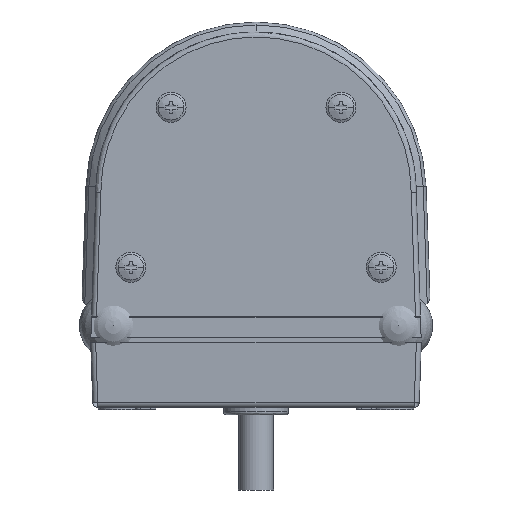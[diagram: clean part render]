
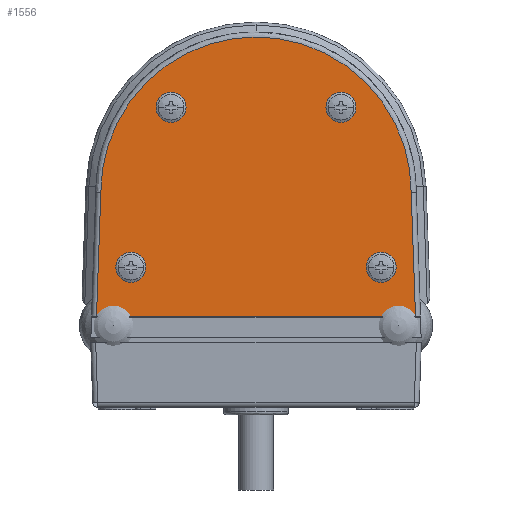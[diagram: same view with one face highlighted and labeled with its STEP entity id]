
A CAD part, front view. The second image highlights one B-rep face of the part: STEP entity #1556.
In plain terms, the highlighted planar face has unit normal (0, -1, 0).
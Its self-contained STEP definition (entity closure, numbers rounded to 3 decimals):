
#1542 = EDGE_CURVE ( 'NONE', #3585, #3582, #12920, .T. ) ;
#1555 = EDGE_CURVE ( 'NONE', #3185, #3207, #12967, .T. ) ;
#1556 = ADVANCED_FACE ( 'NONE', ( #12963, #12962, #12961, #12960, #12959 ), #12958, .F. ) ;
#1557 = EDGE_LOOP ( 'NONE', ( #1730, #1731 ) ) ;
#1560 = EDGE_CURVE ( 'NONE', #3571, #3568, #12956, .T. ) ;
#1566 = ORIENTED_EDGE ( 'NONE', *, *, #3584, .F. ) ;
#1567 = EDGE_LOOP ( 'NONE', ( #1568, #1594, #1597, #1600 ) ) ;
#1568 = ORIENTED_EDGE ( 'NONE', *, *, #1569, .T. ) ;
#1569 = EDGE_CURVE ( 'NONE', #1592, #1593, #12861, .T. ) ;
#1574 = EDGE_CURVE ( 'NONE', #3434, #3431, #12857, .T. ) ;
#1577 = ORIENTED_EDGE ( 'NONE', *, *, #3570, .F. ) ;
#1578 = EDGE_LOOP ( 'NONE', ( #1579, #1566 ) ) ;
#1579 = ORIENTED_EDGE ( 'NONE', *, *, #1542, .F. ) ;
#1586 = ORIENTED_EDGE ( 'NONE', *, *, #1574, .F. ) ;
#1587 = ORIENTED_EDGE ( 'NONE', *, *, #3158, .F. ) ;
#1588 = EDGE_LOOP ( 'NONE', ( #1589, #1577 ) ) ;
#1589 = ORIENTED_EDGE ( 'NONE', *, *, #1560, .F. ) ;
#1592 = VERTEX_POINT ( 'NONE', #13138 ) ;
#1593 = VERTEX_POINT ( 'NONE', #13232 ) ;
#1594 = ORIENTED_EDGE ( 'NONE', *, *, #1595, .T. ) ;
#1595 = EDGE_CURVE ( 'NONE', #1593, #1596, #13222, .T. ) ;
#1596 = VERTEX_POINT ( 'NONE', #13139 ) ;
#1597 = ORIENTED_EDGE ( 'NONE', *, *, #1598, .T. ) ;
#1598 = EDGE_CURVE ( 'NONE', #1596, #1599, #13244, .T. ) ;
#1599 = VERTEX_POINT ( 'NONE', #13240 ) ;
#1600 = ORIENTED_EDGE ( 'NONE', *, *, #1601, .F. ) ;
#1601 = EDGE_CURVE ( 'NONE', #1592, #1599, #13135, .T. ) ;
#1730 = ORIENTED_EDGE ( 'NONE', *, *, #1555, .F. ) ;
#1731 = ORIENTED_EDGE ( 'NONE', *, *, #3184, .F. ) ;
#1732 = EDGE_LOOP ( 'NONE', ( #1586, #1587 ) ) ;
#3158 = EDGE_CURVE ( 'NONE', #3431, #3434, #5089, .T. ) ;
#3184 = EDGE_CURVE ( 'NONE', #3207, #3185, #5535, .T. ) ;
#3185 = VERTEX_POINT ( 'NONE', #5530 ) ;
#3207 = VERTEX_POINT ( 'NONE', #5440 ) ;
#3431 = VERTEX_POINT ( 'NONE', #5882 ) ;
#3434 = VERTEX_POINT ( 'NONE', #5880 ) ;
#3568 = VERTEX_POINT ( 'NONE', #6132 ) ;
#3570 = EDGE_CURVE ( 'NONE', #3568, #3571, #6131, .T. ) ;
#3571 = VERTEX_POINT ( 'NONE', #6187 ) ;
#3582 = VERTEX_POINT ( 'NONE', #6165 ) ;
#3584 = EDGE_CURVE ( 'NONE', #3582, #3585, #6164, .T. ) ;
#3585 = VERTEX_POINT ( 'NONE', #6159 ) ;
#5080 = DIRECTION ( 'NONE',  ( 0., 0., -1. ) ) ;
#5081 = DIRECTION ( 'NONE',  ( 0., -1., 0. ) ) ;
#5082 = CARTESIAN_POINT ( 'NONE',  ( 17.003, 0., 16.471 ) ) ;
#5083 = AXIS2_PLACEMENT_3D ( 'NONE', #5082, #5081, #5080 ) ;
#5089 = CIRCLE ( 'NONE', #5083, 3. ) ;
#5440 = CARTESIAN_POINT ( 'NONE',  ( -16.939, 0., 19.471 ) ) ;
#5530 = CARTESIAN_POINT ( 'NONE',  ( -16.939, 0., 13.471 ) ) ;
#5531 = DIRECTION ( 'NONE',  ( 0., 0., -1. ) ) ;
#5532 = DIRECTION ( 'NONE',  ( 0., -1., 0. ) ) ;
#5533 = CARTESIAN_POINT ( 'NONE',  ( -16.939, 0., 16.471 ) ) ;
#5534 = AXIS2_PLACEMENT_3D ( 'NONE', #5533, #5532, #5531 ) ;
#5535 = CIRCLE ( 'NONE', #5534, 3. ) ;
#5880 = CARTESIAN_POINT ( 'NONE',  ( 17.003, 0., 13.471 ) ) ;
#5882 = CARTESIAN_POINT ( 'NONE',  ( 17.003, 0., 19.471 ) ) ;
#6131 = CIRCLE ( 'NONE', #6191, 3. ) ;
#6132 = CARTESIAN_POINT ( 'NONE',  ( -24.968, 0., -12.5 ) ) ;
#6159 = CARTESIAN_POINT ( 'NONE',  ( 25.032, 0., -18.5 ) ) ;
#6160 = DIRECTION ( 'NONE',  ( 0., 0., -1. ) ) ;
#6161 = DIRECTION ( 'NONE',  ( 0., -1., 0. ) ) ;
#6162 = CARTESIAN_POINT ( 'NONE',  ( 25.032, 0., -15.5 ) ) ;
#6163 = AXIS2_PLACEMENT_3D ( 'NONE', #6162, #6161, #6160 ) ;
#6164 = CIRCLE ( 'NONE', #6163, 3. ) ;
#6165 = CARTESIAN_POINT ( 'NONE',  ( 25.032, 0., -12.5 ) ) ;
#6187 = CARTESIAN_POINT ( 'NONE',  ( -24.968, 0., -18.5 ) ) ;
#6188 = DIRECTION ( 'NONE',  ( 0., 0., -1. ) ) ;
#6189 = DIRECTION ( 'NONE',  ( 0., -1., 0. ) ) ;
#6190 = CARTESIAN_POINT ( 'NONE',  ( -24.968, 0., -15.5 ) ) ;
#6191 = AXIS2_PLACEMENT_3D ( 'NONE', #6190, #6189, #6188 ) ;
#12853 = DIRECTION ( 'NONE',  ( 0., 0., -1. ) ) ;
#12854 = DIRECTION ( 'NONE',  ( 0., -1., 0. ) ) ;
#12855 = CARTESIAN_POINT ( 'NONE',  ( 17.003, 0., 16.471 ) ) ;
#12856 = AXIS2_PLACEMENT_3D ( 'NONE', #12855, #12854, #12853 ) ;
#12857 = CIRCLE ( 'NONE', #12856, 3. ) ;
#12858 = DIRECTION ( 'NONE',  ( -0.035, 0., -0.999 ) ) ;
#12859 = VECTOR ( 'NONE', #12858, 1000. ) ;
#12860 = CARTESIAN_POINT ( 'NONE',  ( -31.403, 0., -12.976 ) ) ;
#12861 = LINE ( 'NONE', #12860, #12859 ) ;
#12916 = DIRECTION ( 'NONE',  ( 0., 0., -1. ) ) ;
#12917 = DIRECTION ( 'NONE',  ( 0., -1., 0. ) ) ;
#12918 = CARTESIAN_POINT ( 'NONE',  ( 25.032, 0., -15.5 ) ) ;
#12919 = AXIS2_PLACEMENT_3D ( 'NONE', #12918, #12917, #12916 ) ;
#12920 = CIRCLE ( 'NONE', #12919, 3. ) ;
#12949 = DIRECTION ( 'NONE',  ( 0., 0., -1. ) ) ;
#12950 = DIRECTION ( 'NONE',  ( 0., -1., 0. ) ) ;
#12951 = CARTESIAN_POINT ( 'NONE',  ( -24.968, 0., -15.5 ) ) ;
#12952 = AXIS2_PLACEMENT_3D ( 'NONE', #12951, #12950, #12949 ) ;
#12953 = DIRECTION ( 'NONE',  ( 0., 0., -1. ) ) ;
#12954 = DIRECTION ( 'NONE',  ( 0., 1., 0. ) ) ;
#12955 = CARTESIAN_POINT ( 'NONE',  ( 32.283, 0., 30.835 ) ) ;
#12956 = CIRCLE ( 'NONE', #12952, 3. ) ;
#12957 = AXIS2_PLACEMENT_3D ( 'NONE', #12955, #12954, #12953 ) ;
#12958 = PLANE ( 'NONE',  #12957 ) ;
#12959 = FACE_OUTER_BOUND ( 'NONE', #1567, .T. ) ;
#12960 = FACE_BOUND ( 'NONE', #1578, .T. ) ;
#12961 = FACE_BOUND ( 'NONE', #1588, .T. ) ;
#12962 = FACE_BOUND ( 'NONE', #1732, .T. ) ;
#12963 = FACE_BOUND ( 'NONE', #1557, .T. ) ;
#12964 = DIRECTION ( 'NONE',  ( 0., 0., -1. ) ) ;
#12965 = DIRECTION ( 'NONE',  ( 0., -1., 0. ) ) ;
#12966 = AXIS2_PLACEMENT_3D ( 'NONE', #12971, #12965, #12964 ) ;
#12967 = CIRCLE ( 'NONE', #12966, 3. ) ;
#12971 = CARTESIAN_POINT ( 'NONE',  ( -16.939, 0., 16.471 ) ) ;
#13135 =( BOUNDED_CURVE ( )  B_SPLINE_CURVE ( 3, ( #13149, #13148, #13147, #13146, #13145, #13144, #13143 ),
 .UNSPECIFIED., .F., .T. ) 
 B_SPLINE_CURVE_WITH_KNOTS ( ( 4, 3, 4 ),
 ( 0., 0.5, 1. ),
 .UNSPECIFIED. ) 
 CURVE ( )  GEOMETRIC_REPRESENTATION_ITEM ( )  RATIONAL_B_SPLINE_CURVE ( ( 0.949, 0.765, 0.768, 0.957, 0.768, 0.765, 0.949 ) ) 
 REPRESENTATION_ITEM ( '' )  );
#13138 = CARTESIAN_POINT ( 'NONE',  ( -30.968, 0., -0.517 ) ) ;
#13139 = CARTESIAN_POINT ( 'NONE',  ( 31.901, 0., -25.4 ) ) ;
#13140 = DIRECTION ( 'NONE',  ( 1., 0., 0. ) ) ;
#13141 = VECTOR ( 'NONE', #13140, 1000. ) ;
#13142 = CARTESIAN_POINT ( 'NONE',  ( 0.032, 0., -25.4 ) ) ;
#13143 = CARTESIAN_POINT ( 'NONE',  ( 31.032, 0., -0.517 ) ) ;
#13144 = CARTESIAN_POINT ( 'NONE',  ( 31.042, 0., 17.679 ) ) ;
#13145 = CARTESIAN_POINT ( 'NONE',  ( 18.17, 0., 30.5 ) ) ;
#13146 = CARTESIAN_POINT ( 'NONE',  ( 0.032, 0., 30.5 ) ) ;
#13147 = CARTESIAN_POINT ( 'NONE',  ( -18.106, 0., 30.5 ) ) ;
#13148 = CARTESIAN_POINT ( 'NONE',  ( -30.978, 0., 17.679 ) ) ;
#13149 = CARTESIAN_POINT ( 'NONE',  ( -30.968, 0., -0.517 ) ) ;
#13222 = LINE ( 'NONE', #13142, #13141 ) ;
#13232 = CARTESIAN_POINT ( 'NONE',  ( -31.837, 0., -25.4 ) ) ;
#13240 = CARTESIAN_POINT ( 'NONE',  ( 31.032, 0., -0.517 ) ) ;
#13241 = DIRECTION ( 'NONE',  ( -0.035, 0., 0.999 ) ) ;
#13242 = VECTOR ( 'NONE', #13241, 1000. ) ;
#13243 = CARTESIAN_POINT ( 'NONE',  ( 31.467, 0., -12.976 ) ) ;
#13244 = LINE ( 'NONE', #13243, #13242 ) ;
